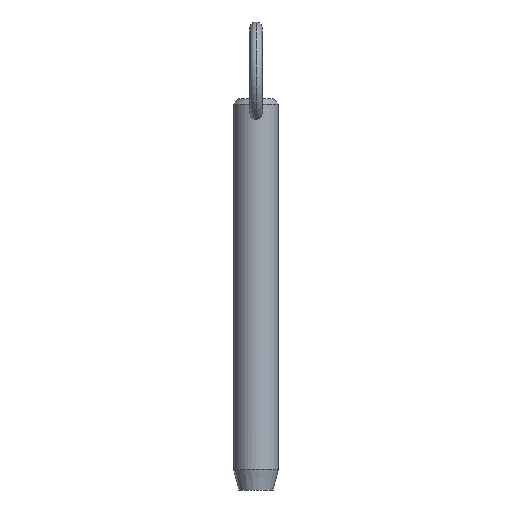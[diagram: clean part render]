
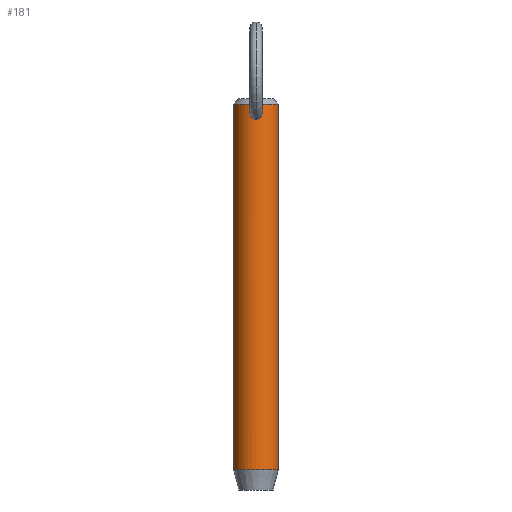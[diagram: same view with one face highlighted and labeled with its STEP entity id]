
A CAD part, front view. The second image highlights one B-rep face of the part: STEP entity #181.
In plain terms, the highlighted cylindrical face has radius 5.55 mm (diameter 11.1 mm), a partial arc.
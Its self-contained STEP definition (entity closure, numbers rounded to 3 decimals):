
#2 = CARTESIAN_POINT ( 'NONE',  ( 0.421, -5.535, 77.532 ) ) ;
#5 = DIRECTION ( 'NONE',  ( -1., 0., 0. ) ) ;
#9 = CARTESIAN_POINT ( 'NONE',  ( 1.055, -5.449, 77.905 ) ) ;
#10 = CARTESIAN_POINT ( 'NONE',  ( 0.807, -5.492, 77.706 ) ) ;
#17 = CARTESIAN_POINT ( 'NONE',  ( -0.211, -5.547, 80.929 ) ) ;
#19 = CARTESIAN_POINT ( 'NONE',  ( 5.55, 0., -9.2 ) ) ;
#25 = CARTESIAN_POINT ( 'NONE',  ( -0.42, -5.535, 77.532 ) ) ;
#38 = CARTESIAN_POINT ( 'NONE',  ( 0.941, -5.471, 80.507 ) ) ;
#40 = EDGE_LOOP ( 'NONE', ( #165, #503, #479, #247 ) ) ;
#42 = CARTESIAN_POINT ( 'NONE',  ( 1.295, -5.397, 79.982 ) ) ;
#47 = CARTESIAN_POINT ( 'NONE',  ( -0.416, -5.535, 80.867 ) ) ;
#49 = CARTESIAN_POINT ( 'NONE',  ( -0.785, -5.497, 80.658 ) ) ;
#50 = CARTESIAN_POINT ( 'NONE',  ( -1.26, -5.407, 78.142 ) ) ;
#51 = VERTEX_POINT ( 'NONE', #453 ) ;
#52 = CARTESIAN_POINT ( 'NONE',  ( 0., -5.55, 77.477 ) ) ;
#53 = CARTESIAN_POINT ( 'NONE',  ( -0.976, -5.464, 77.831 ) ) ;
#56 = VECTOR ( 'NONE', #493, 1000. ) ;
#68 = CARTESIAN_POINT ( 'NONE',  ( 0., 0., -9.2 ) ) ;
#74 = CARTESIAN_POINT ( 'NONE',  ( 0.786, -5.497, 80.657 ) ) ;
#75 = EDGE_CURVE ( 'NONE', #462, #313, #97, .T. ) ;
#80 = EDGE_CURVE ( 'NONE', #313, #304, #355, .T. ) ;
#83 = VECTOR ( 'NONE', #327, 1000. ) ;
#89 = CARTESIAN_POINT ( 'NONE',  ( -0.807, -5.492, 77.705 ) ) ;
#91 = EDGE_CURVE ( 'NONE', #295, #51, #328, .T. ) ;
#97 = LINE ( 'NONE', #402, #83 ) ;
#115 = DIRECTION ( 'NONE',  ( 0., 0., 1. ) ) ;
#117 = CARTESIAN_POINT ( 'NONE',  ( 1.455, -5.356, 78.638 ) ) ;
#119 = AXIS2_PLACEMENT_3D ( 'NONE', #127, #496, #5 ) ;
#121 = CARTESIAN_POINT ( 'NONE',  ( 1.503, -5.343, 79.059 ) ) ;
#125 = EDGE_CURVE ( 'NONE', #442, #304, #502, .T. ) ;
#126 = CARTESIAN_POINT ( 'NONE',  ( 1.44, -5.36, 79.586 ) ) ;
#127 = CARTESIAN_POINT ( 'NONE',  ( 0., 0., 76.2 ) ) ;
#140 = CARTESIAN_POINT ( 'NONE',  ( 0., -5.55, 80.945 ) ) ;
#152 = B_SPLINE_CURVE_WITH_KNOTS ( 'NONE', 3,
 ( #52, #509, #270, #25, #473, #395, #89, #53, #224, #50, #269, #510, #268, #221, #353, #177, #475, #265, #471, #359, #49, #266, #47, #17, #388, #225 ),
 .UNSPECIFIED., .F., .F.,
 ( 4, 2, 2, 2, 2, 2, 2, 2, 2, 2, 2, 2, 4 ),
 ( 0.01, 0.01, 0.01, 0.011, 0.011, 0.012, 0.012, 0.012, 0.013, 0.013, 0.014, 0.014, 0.015 ),
 .UNSPECIFIED. ) ;
#155 = CARTESIAN_POINT ( 'NONE',  ( 0.106, -5.55, 80.945 ) ) ;
#165 = ORIENTED_EDGE ( 'NONE', *, *, #125, .F. ) ;
#177 = CARTESIAN_POINT ( 'NONE',  ( -1.485, -5.348, 79.379 ) ) ;
#178 = DIRECTION ( 'NONE',  ( 1., 0., 0. ) ) ;
#181 = ADVANCED_FACE ( 'NONE', ( #261, #369 ), #336, .T. ) ;
#202 = CARTESIAN_POINT ( 'NONE',  ( 1.486, -5.347, 79.374 ) ) ;
#208 = CARTESIAN_POINT ( 'NONE',  ( 1.194, -5.422, 80.171 ) ) ;
#209 = CARTESIAN_POINT ( 'NONE',  ( 5.55, 0., 76.2 ) ) ;
#221 = CARTESIAN_POINT ( 'NONE',  ( -1.5, -5.343, 78.953 ) ) ;
#224 = CARTESIAN_POINT ( 'NONE',  ( -1.054, -5.449, 77.904 ) ) ;
#225 = CARTESIAN_POINT ( 'NONE',  ( 0., -5.55, 80.945 ) ) ;
#228 = CARTESIAN_POINT ( 'NONE',  ( 0., 0., 81.25 ) ) ;
#244 = CARTESIAN_POINT ( 'NONE',  ( 1.363, -5.38, 78.334 ) ) ;
#245 = CIRCLE ( 'NONE', #451, 5.55 ) ;
#247 = ORIENTED_EDGE ( 'NONE', *, *, #80, .T. ) ;
#249 = CARTESIAN_POINT ( 'NONE',  ( 0.515, -5.527, 80.822 ) ) ;
#251 = CARTESIAN_POINT ( 'NONE',  ( 0., -5.55, 77.477 ) ) ;
#255 = ORIENTED_EDGE ( 'NONE', *, *, #91, .T. ) ;
#261 = FACE_OUTER_BOUND ( 'NONE', #40, .T. ) ;
#265 = CARTESIAN_POINT ( 'NONE',  ( -1.294, -5.398, 79.986 ) ) ;
#266 = CARTESIAN_POINT ( 'NONE',  ( -0.513, -5.527, 80.823 ) ) ;
#268 = CARTESIAN_POINT ( 'NONE',  ( -1.477, -5.35, 78.742 ) ) ;
#269 = CARTESIAN_POINT ( 'NONE',  ( -1.362, -5.381, 78.332 ) ) ;
#270 = CARTESIAN_POINT ( 'NONE',  ( -0.212, -5.547, 77.488 ) ) ;
#275 = EDGE_CURVE ( 'NONE', #442, #462, #245, .T. ) ;
#279 = EDGE_CURVE ( 'NONE', #51, #295, #152, .T. ) ;
#287 = DIRECTION ( 'NONE',  ( -1., 0., 0. ) ) ;
#292 = CARTESIAN_POINT ( 'NONE',  ( 1.477, -5.35, 78.744 ) ) ;
#293 = CARTESIAN_POINT ( 'NONE',  ( 0.523, -5.526, 77.566 ) ) ;
#295 = VERTEX_POINT ( 'NONE', #140 ) ;
#304 = VERTEX_POINT ( 'NONE', #19 ) ;
#313 = VERTEX_POINT ( 'NONE', #321 ) ;
#321 = CARTESIAN_POINT ( 'NONE',  ( -5.55, 0., -9.2 ) ) ;
#327 = DIRECTION ( 'NONE',  ( 0., 0., -1. ) ) ;
#328 = B_SPLINE_CURVE_WITH_KNOTS ( 'NONE', 3,
 ( #372, #155, #420, #497, #249, #74, #38, #208, #42, #126, #202, #121, #375, #292, #117, #244, #412, #9, #456, #10, #414, #293, #2, #416, #458, #251 ),
 .UNSPECIFIED., .F., .F.,
 ( 4, 2, 2, 2, 2, 2, 2, 2, 2, 2, 2, 2, 4 ),
 ( 0.005, 0.005, 0.005, 0.006, 0.006, 0.007, 0.007, 0.008, 0.008, 0.009, 0.009, 0.009, 0.01 ),
 .UNSPECIFIED. ) ;
#336 = CYLINDRICAL_SURFACE ( 'NONE', #119, 5.55 ) ;
#350 = EDGE_LOOP ( 'NONE', ( #255, #417 ) ) ;
#353 = CARTESIAN_POINT ( 'NONE',  ( -1.503, -5.343, 79.059 ) ) ;
#355 = CIRCLE ( 'NONE', #366, 5.55 ) ;
#359 = CARTESIAN_POINT ( 'NONE',  ( -0.939, -5.472, 80.51 ) ) ;
#366 = AXIS2_PLACEMENT_3D ( 'NONE', #68, #115, #287 ) ;
#369 = FACE_BOUND ( 'NONE', #350, .T. ) ;
#372 = CARTESIAN_POINT ( 'NONE',  ( 0., -5.55, 80.945 ) ) ;
#375 = CARTESIAN_POINT ( 'NONE',  ( 1.5, -5.343, 78.954 ) ) ;
#388 = CARTESIAN_POINT ( 'NONE',  ( -0.106, -5.55, 80.945 ) ) ;
#394 = DIRECTION ( 'NONE',  ( 0., 0., -1. ) ) ;
#395 = CARTESIAN_POINT ( 'NONE',  ( -0.716, -5.504, 77.652 ) ) ;
#402 = CARTESIAN_POINT ( 'NONE',  ( -5.55, 0., 76.2 ) ) ;
#412 = CARTESIAN_POINT ( 'NONE',  ( 1.26, -5.407, 78.143 ) ) ;
#413 = CARTESIAN_POINT ( 'NONE',  ( -5.55, 0., 81.25 ) ) ;
#414 = CARTESIAN_POINT ( 'NONE',  ( 0.716, -5.504, 77.652 ) ) ;
#416 = CARTESIAN_POINT ( 'NONE',  ( 0.213, -5.547, 77.488 ) ) ;
#417 = ORIENTED_EDGE ( 'NONE', *, *, #279, .T. ) ;
#420 = CARTESIAN_POINT ( 'NONE',  ( 0.214, -5.547, 80.928 ) ) ;
#442 = VERTEX_POINT ( 'NONE', #444 ) ;
#444 = CARTESIAN_POINT ( 'NONE',  ( 5.55, 0., 81.25 ) ) ;
#451 = AXIS2_PLACEMENT_3D ( 'NONE', #228, #394, #178 ) ;
#453 = CARTESIAN_POINT ( 'NONE',  ( 0., -5.55, 77.477 ) ) ;
#456 = CARTESIAN_POINT ( 'NONE',  ( 0.977, -5.464, 77.832 ) ) ;
#458 = CARTESIAN_POINT ( 'NONE',  ( 0.107, -5.55, 77.477 ) ) ;
#462 = VERTEX_POINT ( 'NONE', #413 ) ;
#471 = CARTESIAN_POINT ( 'NONE',  ( -1.195, -5.421, 80.171 ) ) ;
#473 = CARTESIAN_POINT ( 'NONE',  ( -0.523, -5.526, 77.566 ) ) ;
#475 = CARTESIAN_POINT ( 'NONE',  ( -1.44, -5.36, 79.587 ) ) ;
#479 = ORIENTED_EDGE ( 'NONE', *, *, #75, .T. ) ;
#493 = DIRECTION ( 'NONE',  ( 0., 0., -1. ) ) ;
#496 = DIRECTION ( 'NONE',  ( 0., 0., -1. ) ) ;
#497 = CARTESIAN_POINT ( 'NONE',  ( 0.417, -5.535, 80.867 ) ) ;
#502 = LINE ( 'NONE', #209, #56 ) ;
#503 = ORIENTED_EDGE ( 'NONE', *, *, #275, .T. ) ;
#509 = CARTESIAN_POINT ( 'NONE',  ( -0.107, -5.55, 77.477 ) ) ;
#510 = CARTESIAN_POINT ( 'NONE',  ( -1.455, -5.356, 78.636 ) ) ;
